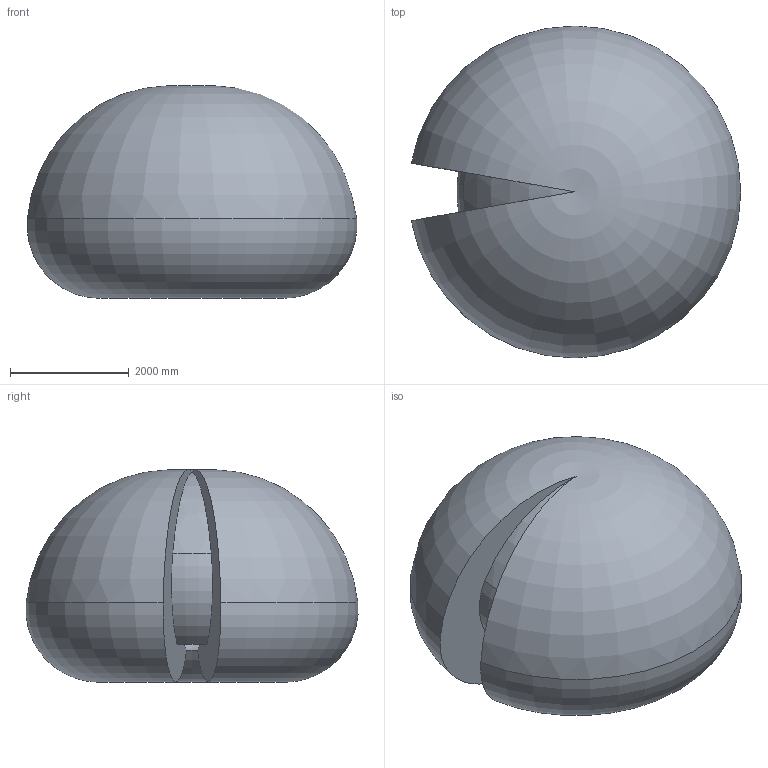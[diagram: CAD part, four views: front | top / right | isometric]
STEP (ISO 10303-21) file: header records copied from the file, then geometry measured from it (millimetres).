
FILE_DESCRIPTION (( 'STEP AP214' ), '1' );
FILE_NAME ('IRB6740-LID_270kg-280_OC_00_Working-space.step', '2026-05-07T13:15:05', ( '' ), ( '' ), 'SwSTEP 2.0', 'SolidWorks 2024', '' );
FILE_SCHEMA (( 'AUTOMOTIVE_DESIGN' ));
Length unit declared in the file: millimetre
Products named in the file (1): IRB6740-LID_270kg-280_OC_00_Working-space
Bounding box: 5548.68 x 5591.15 x 3575.4 mm (x, y, z)
Volume: 57691114584.8 mm3; surface area: 98877938.8 mm2
Topology: 1 solids, 1 shells, 10 faces, 26 edges, 14 vertices
Faces by surface type: torus 8, plane 2
Entity records: 315 total; most frequent: DIRECTION 66, CARTESIAN_POINT 47, ORIENTED_EDGE 44, AXIS2_PLACEMENT_3D 33, CIRCLE 22, EDGE_CURVE 22, VERTEX_POINT 14, EDGE_LOOP 10
